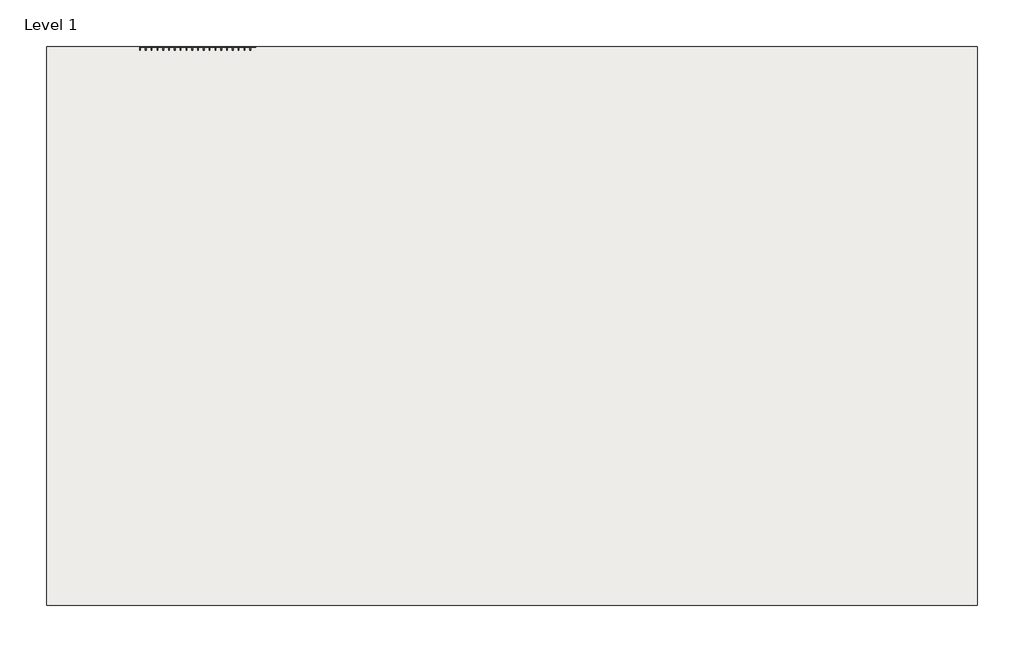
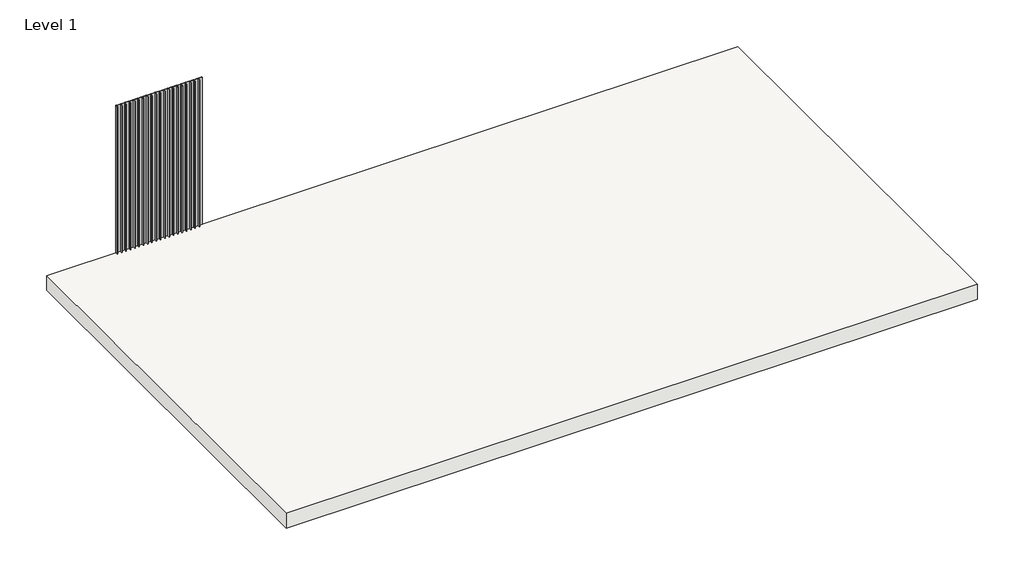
# One storey: 20 proxies, 1 slab.
"""IFC4 building model written with IfcOpenShell, lengths in millimetres."""

from ifc_helpers import new_model, si_unit, frame, origin, place, context, project, spatial, polyline, outline, extrude, transform, mapped, element, save
from components import level_2c6370f1

model = new_model("IFC4")

# Units and contexts
model_context = context("Model", 3, world=origin())
ifc_project = project(units=[si_unit("LENGTHUNIT", "METRE", prefix="MILLI")], contexts=[model_context])

# Site, building, storey
site = spatial("IfcSite", under=ifc_project)
building = spatial("IfcBuilding", under=site)
storey = spatial("IfcBuildingStorey", under=building, Name="Level 1", Elevation=0.0)

# Proxies
placement = place(None, origin())
level_shape = level_2c6370f1(model_context)
element("IfcBuildingElementProxy", 1, Name="Wall-Panel-Kirei-Level_Fins : Level", ObjectType="Wall-Panel-Kirei-Level_Fins : Level", at=placement, inside=storey, context=model_context, shape_type="MappedRepresentation", body=[
    mapped(level_shape, transform((-8864.8472578, 6040.5236992, 1371.6), x_axis=(1.0, 0.0, 0.0), y_axis=(0.0, 0.0, 1.0), z_axis=(0.0, -1.0, 0.0))),
])
element("IfcBuildingElementProxy", 2, Name="Wall-Panel-Kirei-Level_Fins : Level", ObjectType="Wall-Panel-Kirei-Level_Fins : Level", at=placement, inside=storey, context=model_context, shape_type="MappedRepresentation", body=[
    mapped(level_shape, transform((-8788.8456953, 6040.5236992, 1371.6), x_axis=(1.0, 0.0, 0.0), y_axis=(0.0, 0.0, 1.0), z_axis=(0.0, -1.0, 0.0))),
])
element("IfcBuildingElementProxy", 3, Name="Wall-Panel-Kirei-Level_Fins : Level", ObjectType="Wall-Panel-Kirei-Level_Fins : Level", at=placement, inside=storey, context=model_context, shape_type="MappedRepresentation", body=[
    mapped(level_shape, transform((-8712.8441328, 6040.5236992, 1371.6), x_axis=(1.0, 0.0, 0.0), y_axis=(0.0, 0.0, 1.0), z_axis=(0.0, -1.0, 0.0))),
])
element("IfcBuildingElementProxy", 4, Name="Wall-Panel-Kirei-Level_Fins : Level", ObjectType="Wall-Panel-Kirei-Level_Fins : Level", at=placement, inside=storey, context=model_context, shape_type="MappedRepresentation", body=[
    mapped(level_shape, transform((-8636.8425703, 6040.5236992, 1371.6), x_axis=(1.0, 0.0, 0.0), y_axis=(0.0, 0.0, 1.0), z_axis=(0.0, -1.0, 0.0))),
])
element("IfcBuildingElementProxy", 5, Name="Wall-Panel-Kirei-Level_Fins : Level", ObjectType="Wall-Panel-Kirei-Level_Fins : Level", at=placement, inside=storey, context=model_context, shape_type="MappedRepresentation", body=[
    mapped(level_shape, transform((-8560.8410078, 6040.5236992, 1371.6), x_axis=(1.0, 0.0, 0.0), y_axis=(0.0, 0.0, 1.0), z_axis=(0.0, -1.0, 0.0))),
])
element("IfcBuildingElementProxy", 6, Name="Wall-Panel-Kirei-Level_Fins : Level", ObjectType="Wall-Panel-Kirei-Level_Fins : Level", at=placement, inside=storey, context=model_context, shape_type="MappedRepresentation", body=[
    mapped(level_shape, transform((-8484.8394453, 6040.5236992, 1371.6), x_axis=(1.0, 0.0, 0.0), y_axis=(0.0, 0.0, 1.0), z_axis=(0.0, -1.0, 0.0))),
])
element("IfcBuildingElementProxy", 7, Name="Wall-Panel-Kirei-Level_Fins : Level", ObjectType="Wall-Panel-Kirei-Level_Fins : Level", at=placement, inside=storey, context=model_context, shape_type="MappedRepresentation", body=[
    mapped(level_shape, transform((-8408.8378828, 6040.5236992, 1371.6), x_axis=(1.0, 0.0, 0.0), y_axis=(0.0, 0.0, 1.0), z_axis=(0.0, -1.0, 0.0))),
])
element("IfcBuildingElementProxy", 8, Name="Wall-Panel-Kirei-Level_Fins : Level", ObjectType="Wall-Panel-Kirei-Level_Fins : Level", at=placement, inside=storey, context=model_context, shape_type="MappedRepresentation", body=[
    mapped(level_shape, transform((-8332.8363203, 6040.5236992, 1371.6), x_axis=(1.0, 0.0, 0.0), y_axis=(0.0, 0.0, 1.0), z_axis=(0.0, -1.0, 0.0))),
])
element("IfcBuildingElementProxy", 9, Name="Wall-Panel-Kirei-Level_Fins : Level", ObjectType="Wall-Panel-Kirei-Level_Fins : Level", at=placement, inside=storey, context=model_context, shape_type="MappedRepresentation", body=[
    mapped(level_shape, transform((-8256.8347578, 6040.5236992, 1371.6), x_axis=(1.0, 0.0, 0.0), y_axis=(0.0, 0.0, 1.0), z_axis=(0.0, -1.0, 0.0))),
])
element("IfcBuildingElementProxy", 10, Name="Wall-Panel-Kirei-Level_Fins : Level", ObjectType="Wall-Panel-Kirei-Level_Fins : Level", at=placement, inside=storey, context=model_context, shape_type="MappedRepresentation", body=[
    mapped(level_shape, transform((-8180.8331953, 6040.5236992, 1371.6), x_axis=(1.0, 0.0, 0.0), y_axis=(0.0, 0.0, 1.0), z_axis=(0.0, -1.0, 0.0))),
])
element("IfcBuildingElementProxy", 11, Name="Wall-Panel-Kirei-Level_Fins : Level", ObjectType="Wall-Panel-Kirei-Level_Fins : Level", at=placement, inside=storey, context=model_context, shape_type="MappedRepresentation", body=[
    mapped(level_shape, transform((-8104.8316328, 6040.5236992, 1371.6), x_axis=(1.0, 0.0, 0.0), y_axis=(0.0, 0.0, 1.0), z_axis=(0.0, -1.0, 0.0))),
])
element("IfcBuildingElementProxy", 12, Name="Wall-Panel-Kirei-Level_Fins : Level", ObjectType="Wall-Panel-Kirei-Level_Fins : Level", at=placement, inside=storey, context=model_context, shape_type="MappedRepresentation", body=[
    mapped(level_shape, transform((-8028.8300703, 6040.5236992, 1371.6), x_axis=(1.0, 0.0, 0.0), y_axis=(0.0, 0.0, 1.0), z_axis=(0.0, -1.0, 0.0))),
])
element("IfcBuildingElementProxy", 13, Name="Wall-Panel-Kirei-Level_Fins : Level", ObjectType="Wall-Panel-Kirei-Level_Fins : Level", at=placement, inside=storey, context=model_context, shape_type="MappedRepresentation", body=[
    mapped(level_shape, transform((-7952.8285078, 6040.5236992, 1371.6), x_axis=(1.0, 0.0, 0.0), y_axis=(0.0, 0.0, 1.0), z_axis=(0.0, -1.0, 0.0))),
])
element("IfcBuildingElementProxy", 14, Name="Wall-Panel-Kirei-Level_Fins : Level", ObjectType="Wall-Panel-Kirei-Level_Fins : Level", at=placement, inside=storey, context=model_context, shape_type="MappedRepresentation", body=[
    mapped(level_shape, transform((-7876.8269453, 6040.5236992, 1371.6), x_axis=(1.0, 0.0, 0.0), y_axis=(0.0, 0.0, 1.0), z_axis=(0.0, -1.0, 0.0))),
])
element("IfcBuildingElementProxy", 15, Name="Wall-Panel-Kirei-Level_Fins : Level", ObjectType="Wall-Panel-Kirei-Level_Fins : Level", at=placement, inside=storey, context=model_context, shape_type="MappedRepresentation", body=[
    mapped(level_shape, transform((-7800.8253828, 6040.5236992, 1371.6), x_axis=(1.0, 0.0, 0.0), y_axis=(0.0, 0.0, 1.0), z_axis=(0.0, -1.0, 0.0))),
])
element("IfcBuildingElementProxy", 16, Name="Wall-Panel-Kirei-Level_Fins : Level", ObjectType="Wall-Panel-Kirei-Level_Fins : Level", at=placement, inside=storey, context=model_context, shape_type="MappedRepresentation", body=[
    mapped(level_shape, transform((-7724.8238203, 6040.5236992, 1371.6), x_axis=(1.0, 0.0, 0.0), y_axis=(0.0, 0.0, 1.0), z_axis=(0.0, -1.0, 0.0))),
])
element("IfcBuildingElementProxy", 17, Name="Wall-Panel-Kirei-Level_Fins : Level", ObjectType="Wall-Panel-Kirei-Level_Fins : Level", at=placement, inside=storey, context=model_context, shape_type="MappedRepresentation", body=[
    mapped(level_shape, transform((-7648.8222578, 6040.5236992, 1371.6), x_axis=(1.0, 0.0, 0.0), y_axis=(0.0, 0.0, 1.0), z_axis=(0.0, -1.0, 0.0))),
])
element("IfcBuildingElementProxy", 18, Name="Wall-Panel-Kirei-Level_Fins : Level", ObjectType="Wall-Panel-Kirei-Level_Fins : Level", at=placement, inside=storey, context=model_context, shape_type="MappedRepresentation", body=[
    mapped(level_shape, transform((-7572.8206953, 6040.5236992, 1371.6), x_axis=(1.0, 0.0, 0.0), y_axis=(0.0, 0.0, 1.0), z_axis=(0.0, -1.0, 0.0))),
])
element("IfcBuildingElementProxy", 19, Name="Wall-Panel-Kirei-Level_Fins : Level", ObjectType="Wall-Panel-Kirei-Level_Fins : Level", at=placement, inside=storey, context=model_context, shape_type="MappedRepresentation", body=[
    mapped(level_shape, transform((-7496.8191328, 6040.5236992, 1371.6), x_axis=(1.0, 0.0, 0.0), y_axis=(0.0, 0.0, 1.0), z_axis=(0.0, -1.0, 0.0))),
])
element("IfcBuildingElementProxy", 20, Name="Wall-Panel-Kirei-Level_Fins : Level", ObjectType="Wall-Panel-Kirei-Level_Fins : Level", at=placement, inside=storey, context=model_context, shape_type="MappedRepresentation", body=[
    mapped(level_shape, transform((-7420.8175703, 6040.5236992, 1371.6), x_axis=(1.0, 0.0, 0.0), y_axis=(0.0, 0.0, 1.0), z_axis=(0.0, -1.0, 0.0))),
])

# Slab
element("IfcSlab", 21, ObjectType="Wood Joist 10\" - Wood Finish", at=placement, inside=storey, context=model_context, shape_type="SweptSolid", body=[
    extrude(outline(polyline([(-10693.6472578, -1274.6763008), (-10693.6472578, 6040.5236992), (1498.3527422, 6040.5236992), (1498.3527422, -1274.6763008), (-10693.6472578, -1274.6763008)])), frame((0.0, 0.0, -273.05), z_axis=(0.0, 0.0, 1.0), x_axis=(1.0, 0.0, 0.0)), (0.0, 0.0, 1.0), 273.05),
])

save(model, "model.ifc")
